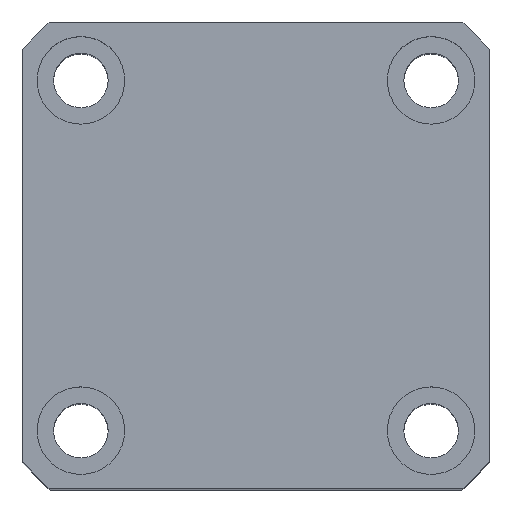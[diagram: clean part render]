
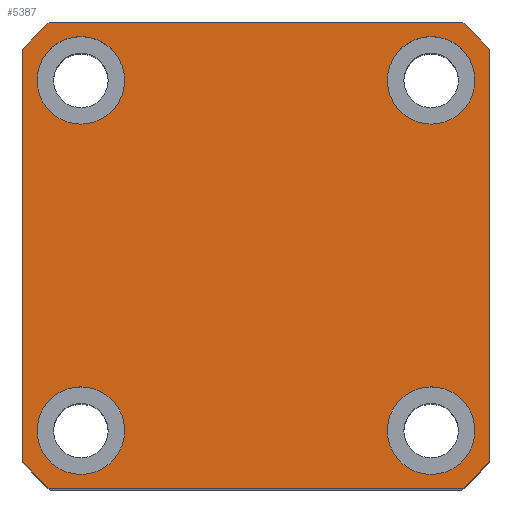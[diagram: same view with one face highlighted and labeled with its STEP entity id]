
A CAD part, top view. The second image highlights one B-rep face of the part: STEP entity #5387.
In plain terms, the highlighted planar face has unit normal (0, 0, 1) as drawn and (1, 0, 0) by its records, which use the part's own axes.
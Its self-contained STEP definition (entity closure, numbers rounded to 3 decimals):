
#5 = CIRCLE ( 'NONE', #4274, 32. ) ;
#226 = AXIS2_PLACEMENT_3D ( 'NONE', #1308, #1305, #1477 ) ;
#248 = CARTESIAN_POINT ( 'NONE',  ( 60., 24., 24. ) ) ;
#308 = VERTEX_POINT ( 'NONE', #1960 ) ;
#342 = FACE_BOUND ( 'NONE', #3900, .T. ) ;
#397 = CARTESIAN_POINT ( 'NONE',  ( 60., -24., 21.166 ) ) ;
#401 = AXIS2_PLACEMENT_3D ( 'NONE', #2500, #6233, #1994 ) ;
#434 = DIRECTION ( 'NONE',  ( 1., 0., 0. ) ) ;
#460 = CARTESIAN_POINT ( 'NONE',  ( 60., 0., 0. ) ) ;
#650 = AXIS2_PLACEMENT_3D ( 'NONE', #5211, #5208, #5202 ) ;
#663 = CARTESIAN_POINT ( 'NONE',  ( 60., 24., 24. ) ) ;
#698 = DIRECTION ( 'NONE',  ( 0., 0., -1. ) ) ;
#702 = DIRECTION ( 'NONE',  ( 1., 0., 0. ) ) ;
#707 = CARTESIAN_POINT ( 'NONE',  ( 60., -18., -18. ) ) ;
#746 = CIRCLE ( 'NONE', #2522, 4.5 ) ;
#822 = DIRECTION ( 'NONE',  ( 0., 0., -1. ) ) ;
#825 = VERTEX_POINT ( 'NONE', #6530 ) ;
#877 = ORIENTED_EDGE ( 'NONE', *, *, #2907, .F. ) ;
#879 = CARTESIAN_POINT ( 'NONE',  ( 60., -18., 13.5 ) ) ;
#926 = LINE ( 'NONE', #4625, #5961 ) ;
#1030 = DIRECTION ( 'NONE',  ( 1., 0., 0. ) ) ;
#1046 = LINE ( 'NONE', #5938, #4016 ) ;
#1056 = VERTEX_POINT ( 'NONE', #2578 ) ;
#1064 = ORIENTED_EDGE ( 'NONE', *, *, #4447, .F. ) ;
#1207 = VECTOR ( 'NONE', #1249, 1000. ) ;
#1226 = EDGE_CURVE ( 'NONE', #825, #5184, #7905, .T. ) ;
#1249 = DIRECTION ( 'NONE',  ( 0., -1., 0. ) ) ;
#1305 = DIRECTION ( 'NONE',  ( 1., 0., 0. ) ) ;
#1308 = CARTESIAN_POINT ( 'NONE',  ( 60., 0., 0. ) ) ;
#1449 = EDGE_CURVE ( 'NONE', #3763, #5266, #1046, .T. ) ;
#1459 = AXIS2_PLACEMENT_3D ( 'NONE', #1472, #7131, #3392 ) ;
#1472 = CARTESIAN_POINT ( 'NONE',  ( 60., 0., 0. ) ) ;
#1477 = DIRECTION ( 'NONE',  ( 0., 0., -1. ) ) ;
#1552 = EDGE_CURVE ( 'NONE', #4108, #6822, #4228, .T. ) ;
#1578 = LINE ( 'NONE', #248, #4998 ) ;
#1692 = EDGE_CURVE ( 'NONE', #5903, #5487, #5307, .T. ) ;
#1774 = EDGE_LOOP ( 'NONE', ( #2366, #7304 ) ) ;
#1940 = FACE_BOUND ( 'NONE', #1774, .T. ) ;
#1960 = CARTESIAN_POINT ( 'NONE',  ( 60., -18., 22.5 ) ) ;
#1989 = ORIENTED_EDGE ( 'NONE', *, *, #7635, .F. ) ;
#1994 = DIRECTION ( 'NONE',  ( 0., 0., -1. ) ) ;
#2030 = AXIS2_PLACEMENT_3D ( 'NONE', #7399, #7374, #7345 ) ;
#2035 = CARTESIAN_POINT ( 'NONE',  ( 60., -21.166, -24. ) ) ;
#2241 = AXIS2_PLACEMENT_3D ( 'NONE', #6241, #5425, #6208 ) ;
#2254 = EDGE_CURVE ( 'NONE', #5266, #5904, #7206, .T. ) ;
#2295 = CARTESIAN_POINT ( 'NONE',  ( 60., -18., 18. ) ) ;
#2299 = VERTEX_POINT ( 'NONE', #5310 ) ;
#2366 = ORIENTED_EDGE ( 'NONE', *, *, #1552, .F. ) ;
#2418 = CARTESIAN_POINT ( 'NONE',  ( 60., -18., -22.5 ) ) ;
#2494 = ORIENTED_EDGE ( 'NONE', *, *, #1226, .F. ) ;
#2500 = CARTESIAN_POINT ( 'NONE',  ( 60., 0., 0. ) ) ;
#2522 = AXIS2_PLACEMENT_3D ( 'NONE', #707, #702, #698 ) ;
#2578 = CARTESIAN_POINT ( 'NONE',  ( 60., 18., 22.5 ) ) ;
#2660 = EDGE_CURVE ( 'NONE', #4933, #3763, #5695, .T. ) ;
#2663 = CIRCLE ( 'NONE', #3523, 4.5 ) ;
#2700 = ORIENTED_EDGE ( 'NONE', *, *, #2660, .T. ) ;
#2739 = PLANE ( 'NONE',  #1459 ) ;
#2767 = ORIENTED_EDGE ( 'NONE', *, *, #7429, .T. ) ;
#2907 = EDGE_CURVE ( 'NONE', #6720, #1056, #3611, .T. ) ;
#2953 = DIRECTION ( 'NONE',  ( 0., 0., -1. ) ) ;
#2955 = AXIS2_PLACEMENT_3D ( 'NONE', #2295, #6715, #2953 ) ;
#3091 = EDGE_LOOP ( 'NONE', ( #877, #1989 ) ) ;
#3162 = EDGE_CURVE ( 'NONE', #6822, #4108, #746, .T. ) ;
#3205 = ORIENTED_EDGE ( 'NONE', *, *, #1692, .T. ) ;
#3292 = CIRCLE ( 'NONE', #2955, 4.5 ) ;
#3326 = EDGE_CURVE ( 'NONE', #2299, #4428, #5, .T. ) ;
#3392 = DIRECTION ( 'NONE',  ( 0., 0., -1. ) ) ;
#3523 = AXIS2_PLACEMENT_3D ( 'NONE', #4836, #1030, #5460 ) ;
#3611 = CIRCLE ( 'NONE', #2241, 4.5 ) ;
#3633 = CARTESIAN_POINT ( 'NONE',  ( 60., 18., -13.5 ) ) ;
#3652 = CARTESIAN_POINT ( 'NONE',  ( 60., 24., -21.166 ) ) ;
#3679 = FACE_BOUND ( 'NONE', #5883, .T. ) ;
#3763 = VERTEX_POINT ( 'NONE', #2035 ) ;
#3795 = AXIS2_PLACEMENT_3D ( 'NONE', #6278, #6270, #6264 ) ;
#3867 = EDGE_CURVE ( 'NONE', #4428, #5903, #7669, .T. ) ;
#3900 = EDGE_LOOP ( 'NONE', ( #2494, #8012 ) ) ;
#3964 = DIRECTION ( 'NONE',  ( 1., 0., 0. ) ) ;
#3985 = CARTESIAN_POINT ( 'NONE',  ( 60., 18., 13.5 ) ) ;
#3990 = DIRECTION ( 'NONE',  ( 0., 0., -1. ) ) ;
#3994 = CARTESIAN_POINT ( 'NONE',  ( 60., -18., -18. ) ) ;
#3999 = DIRECTION ( 'NONE',  ( 0., 0., 1. ) ) ;
#4016 = VECTOR ( 'NONE', #7177, 1000. ) ;
#4095 = CARTESIAN_POINT ( 'NONE',  ( 60., -18., -13.5 ) ) ;
#4108 = VERTEX_POINT ( 'NONE', #2418 ) ;
#4213 = CARTESIAN_POINT ( 'NONE',  ( 60., -21.166, 24. ) ) ;
#4228 = CIRCLE ( 'NONE', #6424, 4.5 ) ;
#4274 = AXIS2_PLACEMENT_3D ( 'NONE', #460, #434, #4586 ) ;
#4327 = ORIENTED_EDGE ( 'NONE', *, *, #3867, .T. ) ;
#4428 = VERTEX_POINT ( 'NONE', #7449 ) ;
#4447 = EDGE_CURVE ( 'NONE', #5750, #308, #4498, .T. ) ;
#4498 = CIRCLE ( 'NONE', #2030, 4.5 ) ;
#4563 = EDGE_CURVE ( 'NONE', #5184, #825, #4778, .T. ) ;
#4586 = DIRECTION ( 'NONE',  ( 0., 0., -1. ) ) ;
#4608 = EDGE_LOOP ( 'NONE', ( #6961, #7052, #2767, #6246, #4327, #3205, #4910, #2700 ) ) ;
#4625 = CARTESIAN_POINT ( 'NONE',  ( 60., -24., 24. ) ) ;
#4778 = CIRCLE ( 'NONE', #3795, 4.5 ) ;
#4836 = CARTESIAN_POINT ( 'NONE',  ( 60., 18., 18. ) ) ;
#4910 = ORIENTED_EDGE ( 'NONE', *, *, #6697, .T. ) ;
#4933 = VERTEX_POINT ( 'NONE', #5819 ) ;
#4975 = ORIENTED_EDGE ( 'NONE', *, *, #6918, .F. ) ;
#4998 = VECTOR ( 'NONE', #3999, 1000. ) ;
#5176 = FACE_OUTER_BOUND ( 'NONE', #4608, .T. ) ;
#5184 = VERTEX_POINT ( 'NONE', #3633 ) ;
#5202 = DIRECTION ( 'NONE',  ( 0., 0., -1. ) ) ;
#5208 = DIRECTION ( 'NONE',  ( 1., 0., 0. ) ) ;
#5211 = CARTESIAN_POINT ( 'NONE',  ( 60., 0., 0. ) ) ;
#5266 = VERTEX_POINT ( 'NONE', #7547 ) ;
#5307 = CIRCLE ( 'NONE', #401, 32. ) ;
#5310 = CARTESIAN_POINT ( 'NONE',  ( 60., 24., 21.166 ) ) ;
#5387 = ADVANCED_FACE ( 'NONE', ( #1940, #3679, #342, #6787, #5176 ), #2739, .T. ) ;
#5425 = DIRECTION ( 'NONE',  ( 1., 0., 0. ) ) ;
#5460 = DIRECTION ( 'NONE',  ( 0., 0., -1. ) ) ;
#5487 = VERTEX_POINT ( 'NONE', #397 ) ;
#5619 = AXIS2_PLACEMENT_3D ( 'NONE', #7576, #7573, #7515 ) ;
#5695 = CIRCLE ( 'NONE', #226, 32. ) ;
#5750 = VERTEX_POINT ( 'NONE', #879 ) ;
#5819 = CARTESIAN_POINT ( 'NONE',  ( 60., -24., -21.166 ) ) ;
#5883 = EDGE_LOOP ( 'NONE', ( #1064, #4975 ) ) ;
#5903 = VERTEX_POINT ( 'NONE', #4213 ) ;
#5904 = VERTEX_POINT ( 'NONE', #3652 ) ;
#5938 = CARTESIAN_POINT ( 'NONE',  ( 60., 24., -24. ) ) ;
#5961 = VECTOR ( 'NONE', #822, 1000. ) ;
#6208 = DIRECTION ( 'NONE',  ( 0., 0., -1. ) ) ;
#6233 = DIRECTION ( 'NONE',  ( 1., 0., 0. ) ) ;
#6241 = CARTESIAN_POINT ( 'NONE',  ( 60., 18., 18. ) ) ;
#6246 = ORIENTED_EDGE ( 'NONE', *, *, #3326, .T. ) ;
#6264 = DIRECTION ( 'NONE',  ( 0., 0., -1. ) ) ;
#6270 = DIRECTION ( 'NONE',  ( 1., 0., 0. ) ) ;
#6278 = CARTESIAN_POINT ( 'NONE',  ( 60., 18., -18. ) ) ;
#6424 = AXIS2_PLACEMENT_3D ( 'NONE', #3994, #3964, #3990 ) ;
#6530 = CARTESIAN_POINT ( 'NONE',  ( 60., 18., -22.5 ) ) ;
#6697 = EDGE_CURVE ( 'NONE', #5487, #4933, #926, .T. ) ;
#6715 = DIRECTION ( 'NONE',  ( 1., 0., 0. ) ) ;
#6720 = VERTEX_POINT ( 'NONE', #3985 ) ;
#6787 = FACE_BOUND ( 'NONE', #3091, .T. ) ;
#6822 = VERTEX_POINT ( 'NONE', #4095 ) ;
#6918 = EDGE_CURVE ( 'NONE', #308, #5750, #3292, .T. ) ;
#6961 = ORIENTED_EDGE ( 'NONE', *, *, #1449, .T. ) ;
#7052 = ORIENTED_EDGE ( 'NONE', *, *, #2254, .T. ) ;
#7131 = DIRECTION ( 'NONE',  ( 1., 0., 0. ) ) ;
#7177 = DIRECTION ( 'NONE',  ( 0., 1., 0. ) ) ;
#7206 = CIRCLE ( 'NONE', #650, 32. ) ;
#7304 = ORIENTED_EDGE ( 'NONE', *, *, #3162, .F. ) ;
#7345 = DIRECTION ( 'NONE',  ( 0., 0., -1. ) ) ;
#7374 = DIRECTION ( 'NONE',  ( 1., 0., 0. ) ) ;
#7399 = CARTESIAN_POINT ( 'NONE',  ( 60., -18., 18. ) ) ;
#7429 = EDGE_CURVE ( 'NONE', #5904, #2299, #1578, .T. ) ;
#7449 = CARTESIAN_POINT ( 'NONE',  ( 60., 21.166, 24. ) ) ;
#7515 = DIRECTION ( 'NONE',  ( 0., 0., -1. ) ) ;
#7547 = CARTESIAN_POINT ( 'NONE',  ( 60., 21.166, -24. ) ) ;
#7573 = DIRECTION ( 'NONE',  ( 1., 0., 0. ) ) ;
#7576 = CARTESIAN_POINT ( 'NONE',  ( 60., 18., -18. ) ) ;
#7635 = EDGE_CURVE ( 'NONE', #1056, #6720, #2663, .T. ) ;
#7669 = LINE ( 'NONE', #663, #1207 ) ;
#7905 = CIRCLE ( 'NONE', #5619, 4.5 ) ;
#8012 = ORIENTED_EDGE ( 'NONE', *, *, #4563, .F. ) ;
